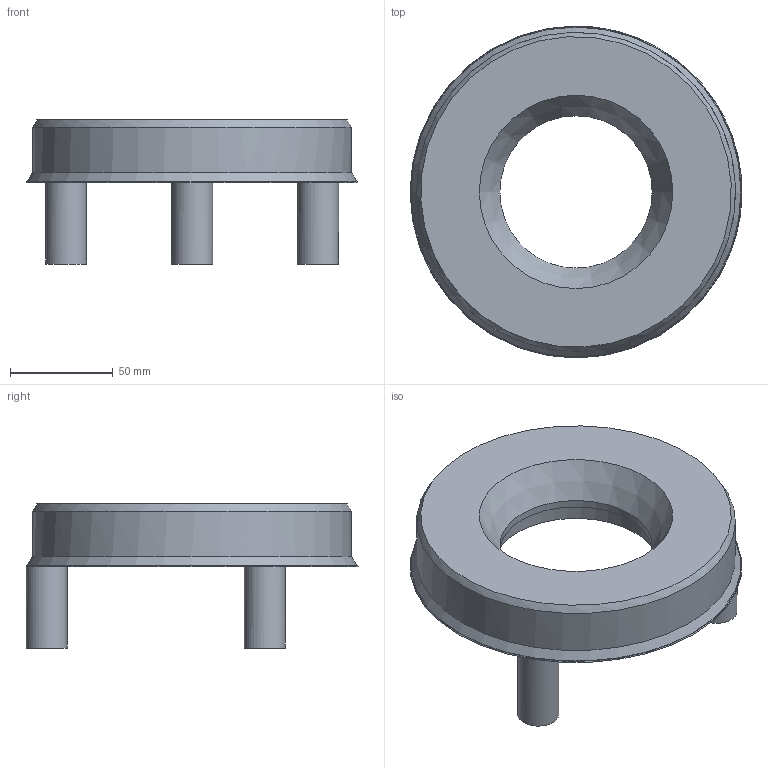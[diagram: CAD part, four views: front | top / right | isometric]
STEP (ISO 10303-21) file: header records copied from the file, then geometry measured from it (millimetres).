
FILE_DESCRIPTION(/* description */ (''),/* implementation_level */ '2;1');
FILE_NAME(/* name */ 'D:\ZaslepkaMereni.stp',/* time_stamp */ '2023-05-09T21:41:39+02:00',/* author */ ('jakub'),/* organization */ (''),/* preprocessor_version */ 'ST-DEVELOPER v15.2',/* originating_system */ 'Autodesk Inventor 2014',/* authorisation */ '');
FILE_SCHEMA (('AUTOMOTIVE_DESIGN { 1 0 10303 214 3 1 1 }'));
Length unit declared in the file: millimetre
Products named in the file (1): ZaslepkaMereni
Bounding box: 161.31 x 161.35 x 70 mm (x, y, z)
Volume: 172366.3 mm3; surface area: 78678.5 mm2
Topology: 1 solids, 1 shells, 90 faces, 253 edges, 167 vertices
Faces by surface type: cylinder 38, plane 19, cone 17, bspline 16
Full cylindrical faces by diameter (mm): 3.242 x2, 20 x3, 74 x1, 155 x1
Entity records: 3726 total; most frequent: CARTESIAN_POINT 1615, ORIENTED_EDGE 470, DIRECTION 376, EDGE_CURVE 235, AXIS2_PLACEMENT_3D 162, VERTEX_POINT 161, EDGE_LOOP 106, B_SPLINE_CURVE_WITH_KNOTS 96
